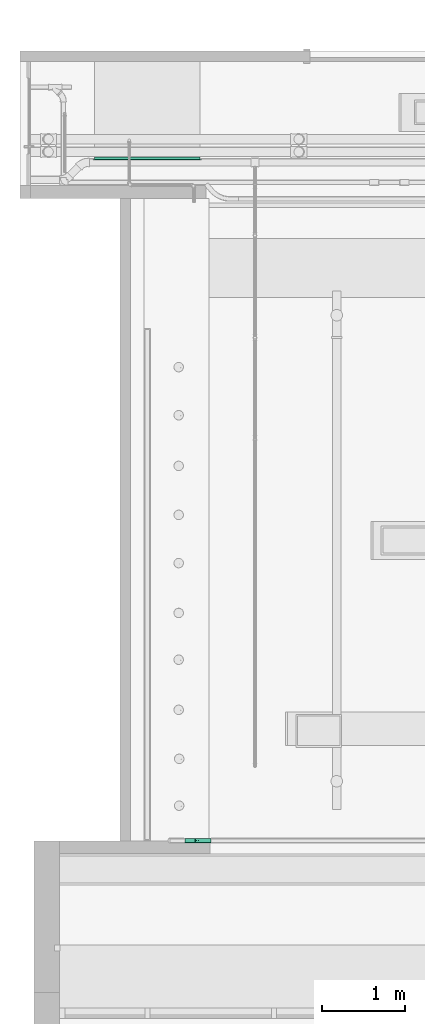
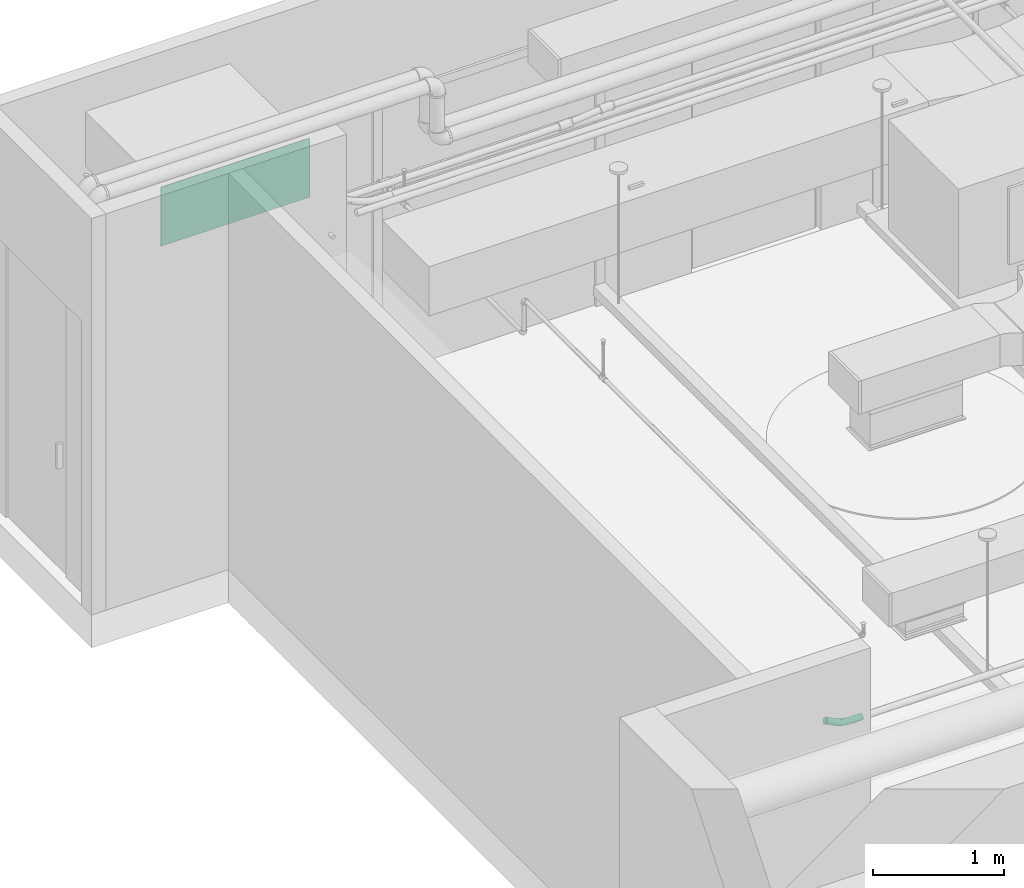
# One storey, part 104 of 108: 1 air terminal, 1 cable carrier fitting.
"""IFC4 building model written with IfcOpenShell, lengths in feet."""

from ifc_helpers import new_model, entity, si_unit, converted_unit, derived_unit, direction, frame, origin, place, context, subcontext, project, spatial, source, transform, mapped, type_object, type_shapes, element, save


model = new_model("IFC4")

# Units and contexts
model_context = context("Model", 3, precision=0.0001, world=origin(), true_north=direction((6.12303176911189e-17, 1.0)))
body_context = subcontext(model_context, "Body", "Model", "MODEL_VIEW")
ifc_project = project(units=[converted_unit("LENGTHUNIT", "FOOT", entity("IfcRatioMeasure", 0.3048), si_unit("LENGTHUNIT", "METRE"), dimensions=[1, 0, 0, 0, 0, 0, 0]), converted_unit("AREAUNIT", "SQUARE FOOT", entity("IfcRatioMeasure", 0.09290304), si_unit("AREAUNIT", "SQUARE_METRE"), dimensions=[2, 0, 0, 0, 0, 0, 0]), converted_unit("VOLUMEUNIT", "CUBIC FOOT", entity("IfcRatioMeasure", 0.028316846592), si_unit("VOLUMEUNIT", "CUBIC_METRE"), dimensions=[3, 0, 0, 0, 0, 0, 0]), converted_unit("PLANEANGLEUNIT", "DEGREE", entity("IfcRatioMeasure", 0.0174532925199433), si_unit("PLANEANGLEUNIT", "RADIAN"), dimensions=[0, 0, 0, 0, 0, 0, 0]), si_unit("MASSUNIT", "GRAM", prefix="KILO"), derived_unit("MASSDENSITYUNIT", [(si_unit("MASSUNIT", "GRAM", prefix="KILO"), 1), (si_unit("LENGTHUNIT", "METRE"), -3)]), si_unit("TIMEUNIT", "SECOND"), si_unit("FREQUENCYUNIT", "HERTZ"), si_unit("THERMODYNAMICTEMPERATUREUNIT", "DEGREE_CELSIUS"), derived_unit("THERMALTRANSMITTANCEUNIT", [(si_unit("MASSUNIT", "GRAM", prefix="KILO"), 1), (si_unit("THERMODYNAMICTEMPERATUREUNIT", "KELVIN"), -1), (si_unit("TIMEUNIT", "SECOND"), -3)]), derived_unit("VOLUMETRICFLOWRATEUNIT", [(si_unit("LENGTHUNIT", "METRE"), 3), (si_unit("TIMEUNIT", "SECOND"), -1)]), si_unit("ELECTRICCURRENTUNIT", "AMPERE"), si_unit("ELECTRICVOLTAGEUNIT", "VOLT"), si_unit("POWERUNIT", "WATT"), si_unit("FORCEUNIT", "NEWTON"), si_unit("ILLUMINANCEUNIT", "LUX"), si_unit("LUMINOUSFLUXUNIT", "LUMEN"), si_unit("LUMINOUSINTENSITYUNIT", "CANDELA"), derived_unit("USERDEFINED", [(si_unit("MASSUNIT", "GRAM", prefix="KILO"), -1), (si_unit("LENGTHUNIT", "METRE"), -2), (si_unit("TIMEUNIT", "SECOND"), 3), (si_unit("LUMINOUSFLUXUNIT", "LUMEN"), 1)]), derived_unit("LINEARVELOCITYUNIT", [(si_unit("LENGTHUNIT", "METRE"), 1), (si_unit("TIMEUNIT", "SECOND"), -1)]), si_unit("PRESSUREUNIT", "PASCAL"), derived_unit("USERDEFINED", [(si_unit("LENGTHUNIT", "METRE"), -2), (si_unit("MASSUNIT", "GRAM", prefix="KILO"), 1), (si_unit("TIMEUNIT", "SECOND"), -2)])], contexts=[model_context])

# Site, building, storey
site_placement = place(None, origin())
site = spatial("IfcSite", under=ifc_project, at=site_placement, Name="Default", CompositionType="ELEMENT")
building_placement = place(site_placement, origin())
building = spatial("IfcBuilding", under=site, at=building_placement, CompositionType="ELEMENT")
storey_placement = place(building_placement, frame((0.0, 0.0, 168.0)))
storey = spatial("IfcBuildingStorey", under=building, at=storey_placement, Name="Level 15", CompositionType="ELEMENT", Elevation=168.0)

# Air terminal
air_terminal_type = type_object("IfcAirTerminalType", Name="50x20", PredefinedType="NOTDEFINED")
cartesian_point_1 = entity("IfcCartesianPoint", [2.15104166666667, -0.015625, 0.901041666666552])
vertex_point_1 = entity("IfcVertexPoint", cartesian_point_1)
cartesian_point_2 = entity("IfcCartesianPoint", [-2.15104166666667, -0.015625, 0.901041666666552])
vertex_point_2 = entity("IfcVertexPoint", cartesian_point_2)
ifc_direction_1 = entity("IfcDirection", [-1.0, 0.0, 0.0])
edge_curve_1 = entity("IfcEdgeCurve", vertex_point_1, vertex_point_2, entity("IfcTrimmedCurve", entity("IfcLine", cartesian_point_1, entity("IfcVector", ifc_direction_1, 1.0)), [cartesian_point_1], [cartesian_point_2], True, "CARTESIAN"), True)
cartesian_point_3 = entity("IfcCartesianPoint", [-2.15104166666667, -0.015625, -0.901041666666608])
vertex_point_3 = entity("IfcVertexPoint", cartesian_point_3)
ifc_direction_2 = entity("IfcDirection", [0.0, 0.0, -1.0])
edge_curve_2 = entity("IfcEdgeCurve", vertex_point_2, vertex_point_3, entity("IfcTrimmedCurve", entity("IfcLine", cartesian_point_2, entity("IfcVector", ifc_direction_2, 1.0)), [cartesian_point_2], [cartesian_point_3], True, "CARTESIAN"), True)
cartesian_point_4 = entity("IfcCartesianPoint", [2.15104166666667, -0.015625, -0.901041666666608])
vertex_point_4 = entity("IfcVertexPoint", cartesian_point_4)
ifc_direction_3 = entity("IfcDirection", [1.0, 0.0, 0.0])
edge_curve_3 = entity("IfcEdgeCurve", vertex_point_3, vertex_point_4, entity("IfcTrimmedCurve", entity("IfcLine", cartesian_point_3, entity("IfcVector", ifc_direction_3, 1.0)), [cartesian_point_3], [cartesian_point_4], True, "CARTESIAN"), True)
ifc_direction_4 = entity("IfcDirection", [0.0, 0.0, 1.0])
edge_curve_4 = entity("IfcEdgeCurve", vertex_point_4, vertex_point_1, entity("IfcTrimmedCurve", entity("IfcLine", cartesian_point_4, entity("IfcVector", ifc_direction_4, 1.0)), [cartesian_point_4], [cartesian_point_1], True, "CARTESIAN"), True)
ifc_direction_5 = entity("IfcDirection", [0.0, -1.0, 0.0])
cartesian_point_5 = entity("IfcCartesianPoint", [2.15104166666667, 0.0, 0.901041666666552])
vertex_point_5 = entity("IfcVertexPoint", cartesian_point_5)
cartesian_point_6 = entity("IfcCartesianPoint", [2.15104166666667, 0.0, -0.901041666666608])
vertex_point_6 = entity("IfcVertexPoint", cartesian_point_6)
edge_curve_5 = entity("IfcEdgeCurve", vertex_point_5, vertex_point_6, entity("IfcTrimmedCurve", entity("IfcLine", cartesian_point_5, entity("IfcVector", ifc_direction_2, 1.0)), [cartesian_point_5], [cartesian_point_6], True, "CARTESIAN"), True)
cartesian_point_7 = entity("IfcCartesianPoint", [-2.15104166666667, 0.0, -0.901041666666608])
vertex_point_7 = entity("IfcVertexPoint", cartesian_point_7)
edge_curve_6 = entity("IfcEdgeCurve", vertex_point_6, vertex_point_7, entity("IfcTrimmedCurve", entity("IfcLine", cartesian_point_6, entity("IfcVector", ifc_direction_1, 1.0)), [cartesian_point_6], [cartesian_point_7], True, "CARTESIAN"), True)
cartesian_point_8 = entity("IfcCartesianPoint", [-2.15104166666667, 0.0, 0.901041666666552])
vertex_point_8 = entity("IfcVertexPoint", cartesian_point_8)
edge_curve_7 = entity("IfcEdgeCurve", vertex_point_7, vertex_point_8, entity("IfcTrimmedCurve", entity("IfcLine", cartesian_point_7, entity("IfcVector", ifc_direction_4, 1.0)), [cartesian_point_7], [cartesian_point_8], True, "CARTESIAN"), True)
edge_curve_8 = entity("IfcEdgeCurve", vertex_point_8, vertex_point_5, entity("IfcTrimmedCurve", entity("IfcLine", cartesian_point_8, entity("IfcVector", ifc_direction_3, 1.0)), [cartesian_point_8], [cartesian_point_5], True, "CARTESIAN"), True)
cartesian_point_9 = entity("IfcCartesianPoint", [-2.08333333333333, 0.0, 0.833333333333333])
vertex_point_9 = entity("IfcVertexPoint", cartesian_point_9)
cartesian_point_10 = entity("IfcCartesianPoint", [-2.08333333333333, 0.0, -0.833333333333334])
vertex_point_10 = entity("IfcVertexPoint", cartesian_point_10)
edge_curve_9 = entity("IfcEdgeCurve", vertex_point_9, vertex_point_10, entity("IfcTrimmedCurve", entity("IfcLine", cartesian_point_9, entity("IfcVector", ifc_direction_2, 1.0)), [cartesian_point_9], [cartesian_point_10], True, "CARTESIAN"), True)
cartesian_point_11 = entity("IfcCartesianPoint", [2.08333333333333, 0.0, -0.833333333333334])
vertex_point_11 = entity("IfcVertexPoint", cartesian_point_11)
edge_curve_10 = entity("IfcEdgeCurve", vertex_point_10, vertex_point_11, entity("IfcTrimmedCurve", entity("IfcLine", cartesian_point_10, entity("IfcVector", ifc_direction_3, 1.0)), [cartesian_point_10], [cartesian_point_11], True, "CARTESIAN"), True)
cartesian_point_12 = entity("IfcCartesianPoint", [2.08333333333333, 0.0, 0.833333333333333])
vertex_point_12 = entity("IfcVertexPoint", cartesian_point_12)
edge_curve_11 = entity("IfcEdgeCurve", vertex_point_11, vertex_point_12, entity("IfcTrimmedCurve", entity("IfcLine", cartesian_point_11, entity("IfcVector", ifc_direction_4, 1.0)), [cartesian_point_11], [cartesian_point_12], True, "CARTESIAN"), True)
edge_curve_12 = entity("IfcEdgeCurve", vertex_point_12, vertex_point_9, entity("IfcTrimmedCurve", entity("IfcLine", cartesian_point_12, entity("IfcVector", ifc_direction_1, 1.0)), [cartesian_point_12], [cartesian_point_9], True, "CARTESIAN"), True)
ifc_direction_6 = entity("IfcDirection", [0.0, 1.0, 0.0])
edge_curve_13 = entity("IfcEdgeCurve", vertex_point_1, vertex_point_5, entity("IfcTrimmedCurve", entity("IfcLine", cartesian_point_1, entity("IfcVector", ifc_direction_6, 1.0)), [cartesian_point_1], [cartesian_point_5], True, "CARTESIAN"), True)
edge_curve_14 = entity("IfcEdgeCurve", vertex_point_8, vertex_point_2, entity("IfcTrimmedCurve", entity("IfcLine", cartesian_point_2, entity("IfcVector", ifc_direction_5, 1.0)), [cartesian_point_8], [cartesian_point_2], True, "CARTESIAN"), True)
edge_curve_15 = entity("IfcEdgeCurve", vertex_point_7, vertex_point_3, entity("IfcTrimmedCurve", entity("IfcLine", cartesian_point_3, entity("IfcVector", ifc_direction_5, 1.0)), [cartesian_point_7], [cartesian_point_3], True, "CARTESIAN"), True)
edge_curve_16 = entity("IfcEdgeCurve", vertex_point_6, vertex_point_4, entity("IfcTrimmedCurve", entity("IfcLine", cartesian_point_4, entity("IfcVector", ifc_direction_5, 1.0)), [cartesian_point_6], [cartesian_point_4], True, "CARTESIAN"), True)
cartesian_point_13 = entity("IfcCartesianPoint", [-2.08333333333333, 0.08984375, 0.833333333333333])
vertex_point_13 = entity("IfcVertexPoint", cartesian_point_13)
cartesian_point_14 = entity("IfcCartesianPoint", [2.08333333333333, 0.08984375, 0.833333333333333])
vertex_point_14 = entity("IfcVertexPoint", cartesian_point_14)
edge_curve_17 = entity("IfcEdgeCurve", vertex_point_13, vertex_point_14, entity("IfcTrimmedCurve", entity("IfcLine", cartesian_point_13, entity("IfcVector", ifc_direction_3, 1.0)), [cartesian_point_13], [cartesian_point_14], True, "CARTESIAN"), True)
cartesian_point_15 = entity("IfcCartesianPoint", [2.08333333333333, 0.08984375, -0.833333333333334])
vertex_point_15 = entity("IfcVertexPoint", cartesian_point_15)
edge_curve_18 = entity("IfcEdgeCurve", vertex_point_14, vertex_point_15, entity("IfcTrimmedCurve", entity("IfcLine", cartesian_point_14, entity("IfcVector", ifc_direction_2, 1.0)), [cartesian_point_14], [cartesian_point_15], True, "CARTESIAN"), True)
cartesian_point_16 = entity("IfcCartesianPoint", [-2.08333333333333, 0.08984375, -0.833333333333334])
vertex_point_16 = entity("IfcVertexPoint", cartesian_point_16)
edge_curve_19 = entity("IfcEdgeCurve", vertex_point_15, vertex_point_16, entity("IfcTrimmedCurve", entity("IfcLine", cartesian_point_15, entity("IfcVector", ifc_direction_1, 1.0)), [cartesian_point_15], [cartesian_point_16], True, "CARTESIAN"), True)
edge_curve_20 = entity("IfcEdgeCurve", vertex_point_16, vertex_point_13, entity("IfcTrimmedCurve", entity("IfcLine", cartesian_point_16, entity("IfcVector", ifc_direction_4, 1.0)), [cartesian_point_16], [cartesian_point_13], True, "CARTESIAN"), True)
cartesian_point_17 = entity("IfcCartesianPoint", [-2.0625, 0.08984375, 0.812500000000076])
vertex_point_17 = entity("IfcVertexPoint", cartesian_point_17)
cartesian_point_18 = entity("IfcCartesianPoint", [-2.0625, 0.08984375, -0.812500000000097])
vertex_point_18 = entity("IfcVertexPoint", cartesian_point_18)
edge_curve_21 = entity("IfcEdgeCurve", vertex_point_17, vertex_point_18, entity("IfcTrimmedCurve", entity("IfcLine", cartesian_point_17, entity("IfcVector", ifc_direction_2, 1.0)), [cartesian_point_17], [cartesian_point_18], True, "CARTESIAN"), True)
cartesian_point_19 = entity("IfcCartesianPoint", [2.0625, 0.08984375, -0.812500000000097])
vertex_point_19 = entity("IfcVertexPoint", cartesian_point_19)
edge_curve_22 = entity("IfcEdgeCurve", vertex_point_18, vertex_point_19, entity("IfcTrimmedCurve", entity("IfcLine", cartesian_point_18, entity("IfcVector", ifc_direction_3, 1.0)), [cartesian_point_18], [cartesian_point_19], True, "CARTESIAN"), True)
cartesian_point_20 = entity("IfcCartesianPoint", [2.0625, 0.08984375, 0.812500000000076])
vertex_point_20 = entity("IfcVertexPoint", cartesian_point_20)
edge_curve_23 = entity("IfcEdgeCurve", vertex_point_19, vertex_point_20, entity("IfcTrimmedCurve", entity("IfcLine", cartesian_point_19, entity("IfcVector", ifc_direction_4, 1.0)), [cartesian_point_19], [cartesian_point_20], True, "CARTESIAN"), True)
edge_curve_24 = entity("IfcEdgeCurve", vertex_point_20, vertex_point_17, entity("IfcTrimmedCurve", entity("IfcLine", cartesian_point_20, entity("IfcVector", ifc_direction_1, 1.0)), [cartesian_point_20], [cartesian_point_17], True, "CARTESIAN"), True)
edge_curve_25 = entity("IfcEdgeCurve", vertex_point_16, vertex_point_10, entity("IfcTrimmedCurve", entity("IfcLine", cartesian_point_10, entity("IfcVector", ifc_direction_5, 1.0)), [cartesian_point_16], [cartesian_point_10], True, "CARTESIAN"), True)
edge_curve_26 = entity("IfcEdgeCurve", vertex_point_9, vertex_point_13, entity("IfcTrimmedCurve", entity("IfcLine", cartesian_point_9, entity("IfcVector", ifc_direction_6, 1.0)), [cartesian_point_9], [cartesian_point_13], True, "CARTESIAN"), True)
edge_curve_27 = entity("IfcEdgeCurve", vertex_point_15, vertex_point_11, entity("IfcTrimmedCurve", entity("IfcLine", cartesian_point_11, entity("IfcVector", ifc_direction_5, 1.0)), [cartesian_point_15], [cartesian_point_11], True, "CARTESIAN"), True)
edge_curve_28 = entity("IfcEdgeCurve", vertex_point_14, vertex_point_12, entity("IfcTrimmedCurve", entity("IfcLine", cartesian_point_12, entity("IfcVector", ifc_direction_5, 1.0)), [cartesian_point_14], [cartesian_point_12], True, "CARTESIAN"), True)
cartesian_point_21 = entity("IfcCartesianPoint", [-2.0625, 0.0911458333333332, 0.812500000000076])
vertex_point_21 = entity("IfcVertexPoint", cartesian_point_21)
cartesian_point_22 = entity("IfcCartesianPoint", [2.0625, 0.0911458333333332, 0.812500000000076])
vertex_point_22 = entity("IfcVertexPoint", cartesian_point_22)
edge_curve_29 = entity("IfcEdgeCurve", vertex_point_21, vertex_point_22, entity("IfcTrimmedCurve", entity("IfcLine", cartesian_point_21, entity("IfcVector", ifc_direction_3, 1.0)), [cartesian_point_21], [cartesian_point_22], True, "CARTESIAN"), True)
cartesian_point_23 = entity("IfcCartesianPoint", [2.0625, 0.0911458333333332, -0.812500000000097])
vertex_point_23 = entity("IfcVertexPoint", cartesian_point_23)
edge_curve_30 = entity("IfcEdgeCurve", vertex_point_22, vertex_point_23, entity("IfcTrimmedCurve", entity("IfcLine", cartesian_point_22, entity("IfcVector", ifc_direction_2, 1.0)), [cartesian_point_22], [cartesian_point_23], True, "CARTESIAN"), True)
cartesian_point_24 = entity("IfcCartesianPoint", [-2.0625, 0.0911458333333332, -0.812500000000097])
vertex_point_24 = entity("IfcVertexPoint", cartesian_point_24)
edge_curve_31 = entity("IfcEdgeCurve", vertex_point_23, vertex_point_24, entity("IfcTrimmedCurve", entity("IfcLine", cartesian_point_23, entity("IfcVector", ifc_direction_1, 1.0)), [cartesian_point_23], [cartesian_point_24], True, "CARTESIAN"), True)
edge_curve_32 = entity("IfcEdgeCurve", vertex_point_24, vertex_point_21, entity("IfcTrimmedCurve", entity("IfcLine", cartesian_point_24, entity("IfcVector", ifc_direction_4, 1.0)), [cartesian_point_24], [cartesian_point_21], True, "CARTESIAN"), True)
edge_curve_33 = entity("IfcEdgeCurve", vertex_point_24, vertex_point_18, entity("IfcTrimmedCurve", entity("IfcLine", cartesian_point_18, entity("IfcVector", ifc_direction_5, 1.0)), [cartesian_point_24], [cartesian_point_18], True, "CARTESIAN"), True)
edge_curve_34 = entity("IfcEdgeCurve", vertex_point_17, vertex_point_21, entity("IfcTrimmedCurve", entity("IfcLine", cartesian_point_17, entity("IfcVector", ifc_direction_6, 1.0)), [cartesian_point_17], [cartesian_point_21], True, "CARTESIAN"), True)
edge_curve_35 = entity("IfcEdgeCurve", vertex_point_23, vertex_point_19, entity("IfcTrimmedCurve", entity("IfcLine", cartesian_point_19, entity("IfcVector", ifc_direction_5, 1.0)), [cartesian_point_23], [cartesian_point_19], True, "CARTESIAN"), True)
edge_curve_36 = entity("IfcEdgeCurve", vertex_point_22, vertex_point_20, entity("IfcTrimmedCurve", entity("IfcLine", cartesian_point_20, entity("IfcVector", ifc_direction_5, 1.0)), [cartesian_point_22], [cartesian_point_20], True, "CARTESIAN"), True)
shared_shape_1 = source(origin(), body_context, "Body", "AdvancedBrep", [
    entity("IfcAdvancedBrep", entity("IfcClosedShell", [entity("IfcAdvancedFace", [entity("IfcFaceOuterBound", entity("IfcEdgeLoop", [entity("IfcOrientedEdge", None, None, edge_curve_1, True), entity("IfcOrientedEdge", None, None, edge_curve_2, True), entity("IfcOrientedEdge", None, None, edge_curve_3, True), entity("IfcOrientedEdge", None, None, edge_curve_4, True)]), True)], entity("IfcPlane", entity("IfcAxis2Placement3D", cartesian_point_2, ifc_direction_5, ifc_direction_1)), True), entity("IfcAdvancedFace", [entity("IfcFaceOuterBound", entity("IfcEdgeLoop", [entity("IfcOrientedEdge", None, None, edge_curve_5, True), entity("IfcOrientedEdge", None, None, edge_curve_6, True), entity("IfcOrientedEdge", None, None, edge_curve_7, True), entity("IfcOrientedEdge", None, None, edge_curve_8, True)]), True), entity("IfcFaceBound", entity("IfcEdgeLoop", [entity("IfcOrientedEdge", None, None, edge_curve_9, True), entity("IfcOrientedEdge", None, None, edge_curve_10, True), entity("IfcOrientedEdge", None, None, edge_curve_11, True), entity("IfcOrientedEdge", None, None, edge_curve_12, True)]), False)], entity("IfcPlane", entity("IfcAxis2Placement3D", cartesian_point_8, ifc_direction_6, ifc_direction_3)), True), entity("IfcAdvancedFace", [entity("IfcFaceOuterBound", entity("IfcEdgeLoop", [entity("IfcOrientedEdge", None, None, edge_curve_1, False), entity("IfcOrientedEdge", None, None, edge_curve_13, True), entity("IfcOrientedEdge", None, None, edge_curve_8, False), entity("IfcOrientedEdge", None, None, edge_curve_14, True)]), True)], entity("IfcPlane", entity("IfcAxis2Placement3D", cartesian_point_1, ifc_direction_4, ifc_direction_6)), True), entity("IfcAdvancedFace", [entity("IfcFaceOuterBound", entity("IfcEdgeLoop", [entity("IfcOrientedEdge", None, None, edge_curve_2, False), entity("IfcOrientedEdge", None, None, edge_curve_14, False), entity("IfcOrientedEdge", None, None, edge_curve_7, False), entity("IfcOrientedEdge", None, None, edge_curve_15, True)]), True)], entity("IfcPlane", entity("IfcAxis2Placement3D", cartesian_point_2, ifc_direction_1, ifc_direction_6)), True), entity("IfcAdvancedFace", [entity("IfcFaceOuterBound", entity("IfcEdgeLoop", [entity("IfcOrientedEdge", None, None, edge_curve_3, False), entity("IfcOrientedEdge", None, None, edge_curve_15, False), entity("IfcOrientedEdge", None, None, edge_curve_6, False), entity("IfcOrientedEdge", None, None, edge_curve_16, True)]), True)], entity("IfcPlane", entity("IfcAxis2Placement3D", cartesian_point_3, ifc_direction_2, ifc_direction_6)), True), entity("IfcAdvancedFace", [entity("IfcFaceOuterBound", entity("IfcEdgeLoop", [entity("IfcOrientedEdge", None, None, edge_curve_4, False), entity("IfcOrientedEdge", None, None, edge_curve_16, False), entity("IfcOrientedEdge", None, None, edge_curve_5, False), entity("IfcOrientedEdge", None, None, edge_curve_13, False)]), True)], entity("IfcPlane", entity("IfcAxis2Placement3D", cartesian_point_4, ifc_direction_3, ifc_direction_6)), True), entity("IfcAdvancedFace", [entity("IfcFaceOuterBound", entity("IfcEdgeLoop", [entity("IfcOrientedEdge", None, None, edge_curve_17, True), entity("IfcOrientedEdge", None, None, edge_curve_18, True), entity("IfcOrientedEdge", None, None, edge_curve_19, True), entity("IfcOrientedEdge", None, None, edge_curve_20, True)]), True), entity("IfcFaceBound", entity("IfcEdgeLoop", [entity("IfcOrientedEdge", None, None, edge_curve_21, True), entity("IfcOrientedEdge", None, None, edge_curve_22, True), entity("IfcOrientedEdge", None, None, edge_curve_23, True), entity("IfcOrientedEdge", None, None, edge_curve_24, True)]), False)], entity("IfcPlane", entity("IfcAxis2Placement3D", cartesian_point_13, ifc_direction_6, ifc_direction_4)), True), entity("IfcAdvancedFace", [entity("IfcFaceOuterBound", entity("IfcEdgeLoop", [entity("IfcOrientedEdge", None, None, edge_curve_20, False), entity("IfcOrientedEdge", None, None, edge_curve_25, True), entity("IfcOrientedEdge", None, None, edge_curve_9, False), entity("IfcOrientedEdge", None, None, edge_curve_26, True)]), True)], entity("IfcPlane", entity("IfcAxis2Placement3D", cartesian_point_9, ifc_direction_1, ifc_direction_6)), True), entity("IfcAdvancedFace", [entity("IfcFaceOuterBound", entity("IfcEdgeLoop", [entity("IfcOrientedEdge", None, None, edge_curve_19, False), entity("IfcOrientedEdge", None, None, edge_curve_27, True), entity("IfcOrientedEdge", None, None, edge_curve_10, False), entity("IfcOrientedEdge", None, None, edge_curve_25, False)]), True)], entity("IfcPlane", entity("IfcAxis2Placement3D", cartesian_point_10, ifc_direction_2, ifc_direction_6)), True), entity("IfcAdvancedFace", [entity("IfcFaceOuterBound", entity("IfcEdgeLoop", [entity("IfcOrientedEdge", None, None, edge_curve_18, False), entity("IfcOrientedEdge", None, None, edge_curve_28, True), entity("IfcOrientedEdge", None, None, edge_curve_11, False), entity("IfcOrientedEdge", None, None, edge_curve_27, False)]), True)], entity("IfcPlane", entity("IfcAxis2Placement3D", cartesian_point_11, ifc_direction_3, ifc_direction_6)), True), entity("IfcAdvancedFace", [entity("IfcFaceOuterBound", entity("IfcEdgeLoop", [entity("IfcOrientedEdge", None, None, edge_curve_17, False), entity("IfcOrientedEdge", None, None, edge_curve_26, False), entity("IfcOrientedEdge", None, None, edge_curve_12, False), entity("IfcOrientedEdge", None, None, edge_curve_28, False)]), True)], entity("IfcPlane", entity("IfcAxis2Placement3D", cartesian_point_12, ifc_direction_4, ifc_direction_6)), True), entity("IfcAdvancedFace", [entity("IfcFaceOuterBound", entity("IfcEdgeLoop", [entity("IfcOrientedEdge", None, None, edge_curve_29, True), entity("IfcOrientedEdge", None, None, edge_curve_30, True), entity("IfcOrientedEdge", None, None, edge_curve_31, True), entity("IfcOrientedEdge", None, None, edge_curve_32, True)]), True)], entity("IfcPlane", entity("IfcAxis2Placement3D", cartesian_point_21, ifc_direction_6, ifc_direction_4)), True), entity("IfcAdvancedFace", [entity("IfcFaceOuterBound", entity("IfcEdgeLoop", [entity("IfcOrientedEdge", None, None, edge_curve_32, False), entity("IfcOrientedEdge", None, None, edge_curve_33, True), entity("IfcOrientedEdge", None, None, edge_curve_21, False), entity("IfcOrientedEdge", None, None, edge_curve_34, True)]), True)], entity("IfcPlane", entity("IfcAxis2Placement3D", cartesian_point_17, ifc_direction_1, ifc_direction_6)), True), entity("IfcAdvancedFace", [entity("IfcFaceOuterBound", entity("IfcEdgeLoop", [entity("IfcOrientedEdge", None, None, edge_curve_31, False), entity("IfcOrientedEdge", None, None, edge_curve_35, True), entity("IfcOrientedEdge", None, None, edge_curve_22, False), entity("IfcOrientedEdge", None, None, edge_curve_33, False)]), True)], entity("IfcPlane", entity("IfcAxis2Placement3D", cartesian_point_18, ifc_direction_2, ifc_direction_6)), True), entity("IfcAdvancedFace", [entity("IfcFaceOuterBound", entity("IfcEdgeLoop", [entity("IfcOrientedEdge", None, None, edge_curve_30, False), entity("IfcOrientedEdge", None, None, edge_curve_36, True), entity("IfcOrientedEdge", None, None, edge_curve_23, False), entity("IfcOrientedEdge", None, None, edge_curve_35, False)]), True)], entity("IfcPlane", entity("IfcAxis2Placement3D", cartesian_point_19, ifc_direction_3, ifc_direction_6)), True), entity("IfcAdvancedFace", [entity("IfcFaceOuterBound", entity("IfcEdgeLoop", [entity("IfcOrientedEdge", None, None, edge_curve_29, False), entity("IfcOrientedEdge", None, None, edge_curve_34, False), entity("IfcOrientedEdge", None, None, edge_curve_24, False), entity("IfcOrientedEdge", None, None, edge_curve_36, False)]), True)], entity("IfcPlane", entity("IfcAxis2Placement3D", cartesian_point_20, ifc_direction_4, ifc_direction_6)), True)])),
])
type_shapes(air_terminal_type, [shared_shape_1])
air_terminal_placement = place(storey_placement, frame((-55.0598474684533, 11.3298321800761, 10.2083333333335)))
element("IfcAirTerminal", 1, at=air_terminal_placement, inside=storey, type_object=air_terminal_type, Name="Supply Diffuser - Sidewall:50x20", ObjectType="Supply Diffuser - Sidewall:50x20", PredefinedType="NOTDEFINED", context=body_context, shape_type="MappedRepresentation", body=[
    mapped(shared_shape_1, transform((0.0, 0.0, 0.0), scale=1.0)),
])

# Cable carrier fitting
cable_carrier_fitting_type = type_object("IfcCableCarrierFittingType", Name="Standard", PredefinedType="NOTDEFINED")
cartesian_point_25 = entity("IfcCartesianPoint", [-0.554582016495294, -0.0915416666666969, 0.0])
vertex_point_25 = entity("IfcVertexPoint", cartesian_point_25)
cartesian_point_26 = entity("IfcCartesianPoint", [-0.554582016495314, 0.0915416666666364, 0.0])
vertex_point_26 = entity("IfcVertexPoint", cartesian_point_26)
cartesian_point_27 = entity("IfcCartesianPoint", [-0.554582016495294, 0.0, 0.0])
ifc_direction_7 = entity("IfcDirection", [-1.0, 0.0, 0.0])
ifc_direction_8 = entity("IfcDirection", [0.0, 1.0, 0.0])
edge_curve_37 = entity("IfcEdgeCurve", vertex_point_25, vertex_point_26, entity("IfcTrimmedCurve", entity("IfcCircle", entity("IfcAxis2Placement3D", cartesian_point_27, ifc_direction_7, ifc_direction_8), 0.0915416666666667), [cartesian_point_25], [cartesian_point_26], True, "CARTESIAN"), True)
edge_curve_38 = entity("IfcEdgeCurve", vertex_point_26, vertex_point_25, entity("IfcTrimmedCurve", entity("IfcCircle", entity("IfcAxis2Placement3D", cartesian_point_27, ifc_direction_7, ifc_direction_8), 0.0915416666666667), [cartesian_point_26], [cartesian_point_25], True, "CARTESIAN"), True)
ifc_direction_9 = entity("IfcDirection", [0.0, 0.0, 1.0])
cartesian_point_28 = entity("IfcCartesianPoint", [-0.221248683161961, -0.0915416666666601, 0.0])
vertex_point_27 = entity("IfcVertexPoint", cartesian_point_28)
edge_curve_39 = entity("IfcEdgeCurve", vertex_point_25, vertex_point_27, entity("IfcTrimmedCurve", entity("IfcLine", cartesian_point_25, entity("IfcVector", entity("IfcDirection", [1.0, 0.0, 0.0]), 1.0)), [cartesian_point_25], [cartesian_point_28], True, "CARTESIAN"), True)
cartesian_point_29 = entity("IfcCartesianPoint", [-0.221248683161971, 0.0915416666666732, 0.0])
vertex_point_28 = entity("IfcVertexPoint", cartesian_point_29)
cartesian_point_30 = entity("IfcCartesianPoint", [-0.221248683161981, 0.0, 0.0])
edge_curve_40 = entity("IfcEdgeCurve", vertex_point_27, vertex_point_28, entity("IfcTrimmedCurve", entity("IfcCircle", entity("IfcAxis2Placement3D", cartesian_point_30, ifc_direction_7, ifc_direction_8), 0.0915416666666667), [cartesian_point_28], [cartesian_point_29], True, "CARTESIAN"), True)
edge_curve_41 = entity("IfcEdgeCurve", vertex_point_28, vertex_point_26, entity("IfcTrimmedCurve", entity("IfcLine", cartesian_point_26, entity("IfcVector", ifc_direction_7, 1.0)), [cartesian_point_29], [cartesian_point_26], True, "CARTESIAN"), True)
edge_curve_42 = entity("IfcEdgeCurve", vertex_point_28, vertex_point_27, entity("IfcTrimmedCurve", entity("IfcCircle", entity("IfcAxis2Placement3D", cartesian_point_30, ifc_direction_7, ifc_direction_8), 0.0915416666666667), [cartesian_point_29], [cartesian_point_28], True, "CARTESIAN"), True)
cartesian_point_31 = entity("IfcCartesianPoint", [0.158727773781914, 0.179266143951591, 0.0])
vertex_point_29 = entity("IfcVertexPoint", cartesian_point_31)
cartesian_point_32 = entity("IfcCartesianPoint", [-0.221248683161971, 0.958333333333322, 0.0])
ifc_direction_10 = entity("IfcDirection", [0.0, -1.0, 0.0])
edge_curve_43 = entity("IfcEdgeCurve", vertex_point_29, vertex_point_28, entity("IfcTrimmedCurve", entity("IfcCircle", entity("IfcAxis2Placement3D", cartesian_point_32, entity("IfcDirection", [0.0, 0.0, -1.0]), ifc_direction_10), 0.866791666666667), [cartesian_point_31], [cartesian_point_29], True, "CARTESIAN"), True)
cartesian_point_33 = entity("IfcCartesianPoint", [0.238986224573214, 0.014711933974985, 0.0])
vertex_point_30 = entity("IfcVertexPoint", cartesian_point_33)
edge_curve_44 = entity("IfcEdgeCurve", vertex_point_27, vertex_point_30, entity("IfcTrimmedCurve", entity("IfcCircle", entity("IfcAxis2Placement3D", cartesian_point_32, ifc_direction_9, ifc_direction_10), 1.049875), [cartesian_point_28], [cartesian_point_33], True, "CARTESIAN"), True)
cartesian_point_34 = entity("IfcCartesianPoint", [0.198856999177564, 0.0969890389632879, 0.0])
edge_curve_45 = entity("IfcEdgeCurve", vertex_point_30, vertex_point_29, entity("IfcTrimmedCurve", entity("IfcCircle", entity("IfcAxis2Placement3D", cartesian_point_34, entity("IfcDirection", [-0.898794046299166, -0.43837114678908, 0.0]), entity("IfcDirection", [-0.43837114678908, 0.898794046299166, 0.0])), 0.0915416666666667), [cartesian_point_33], [cartesian_point_31], True, "CARTESIAN"), True)
cartesian_point_35 = entity("IfcCartesianPoint", [0.737084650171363, 0.958333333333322, 0.0])
cartesian_point_36 = entity("IfcCartesianPoint", [0.828626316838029, 0.958333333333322, 0.0])
cartesian_point_37 = entity("IfcCartesianPoint", [0.645542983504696, 0.958333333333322, 0.0])
edge_curve_46 = entity("IfcEdgeCurve", vertex_point_29, vertex_point_30, entity("IfcTrimmedCurve", entity("IfcCircle", entity("IfcAxis2Placement3D", cartesian_point_34, entity("IfcDirection", [-0.898794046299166, -0.43837114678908, 0.0]), entity("IfcDirection", [-0.43837114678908, 0.898794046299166, 0.0])), 0.0915416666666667), [cartesian_point_31], [cartesian_point_33], True, "CARTESIAN"), True)
cartesian_point_38 = entity("IfcCartesianPoint", [0.53858424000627, 0.160835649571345, 0.0])
vertex_point_31 = entity("IfcVertexPoint", cartesian_point_38)
cartesian_point_39 = entity("IfcCartesianPoint", [0.458325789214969, 0.325389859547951, 0.0])
vertex_point_32 = entity("IfcVertexPoint", cartesian_point_39)
cartesian_point_40 = entity("IfcCartesianPoint", [0.498455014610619, 0.243112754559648, 0.0])
edge_curve_47 = entity("IfcEdgeCurve", vertex_point_31, vertex_point_32, entity("IfcTrimmedCurve", entity("IfcCircle", entity("IfcAxis2Placement3D", cartesian_point_40, entity("IfcDirection", [0.898794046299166, 0.43837114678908, 0.0]), entity("IfcDirection", [-0.43837114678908, 0.898794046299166, 0.0])), 0.0915416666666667), [cartesian_point_38], [cartesian_point_39], True, "CARTESIAN"), True)
edge_curve_48 = entity("IfcEdgeCurve", vertex_point_32, vertex_point_31, entity("IfcTrimmedCurve", entity("IfcCircle", entity("IfcAxis2Placement3D", cartesian_point_40, entity("IfcDirection", [0.898794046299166, 0.43837114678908, 0.0]), entity("IfcDirection", [-0.43837114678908, 0.898794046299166, 0.0])), 0.0915416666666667), [cartesian_point_39], [cartesian_point_38], True, "CARTESIAN"), True)
edge_curve_49 = entity("IfcEdgeCurve", vertex_point_30, vertex_point_31, entity("IfcTrimmedCurve", entity("IfcLine", cartesian_point_33, entity("IfcVector", entity("IfcDirection", [0.898794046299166, 0.43837114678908, 0.0]), 1.0)), [cartesian_point_33], [cartesian_point_38], True, "CARTESIAN"), True)
edge_curve_50 = entity("IfcEdgeCurve", vertex_point_32, vertex_point_29, entity("IfcTrimmedCurve", entity("IfcLine", cartesian_point_31, entity("IfcVector", entity("IfcDirection", [-0.898794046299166, -0.43837114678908, 0.0]), 1.0)), [cartesian_point_39], [cartesian_point_31], True, "CARTESIAN"), True)
shared_shape_2 = source(origin(), body_context, "Body", "AdvancedBrep", [
    entity("IfcAdvancedBrep", entity("IfcClosedShell", [entity("IfcAdvancedFace", [entity("IfcFaceOuterBound", entity("IfcEdgeLoop", [entity("IfcOrientedEdge", None, None, edge_curve_37, True), entity("IfcOrientedEdge", None, None, edge_curve_38, True)]), True)], entity("IfcPlane", entity("IfcAxis2Placement3D", cartesian_point_27, ifc_direction_7, ifc_direction_9)), True), entity("IfcAdvancedFace", [entity("IfcFaceOuterBound", entity("IfcEdgeLoop", [entity("IfcOrientedEdge", None, None, edge_curve_37, False), entity("IfcOrientedEdge", None, None, edge_curve_39, True), entity("IfcOrientedEdge", None, None, edge_curve_40, True), entity("IfcOrientedEdge", None, None, edge_curve_41, True)]), True)], entity("IfcCylindricalSurface", entity("IfcAxis2Placement3D", cartesian_point_27, ifc_direction_7, ifc_direction_8), 0.0915416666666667), True), entity("IfcAdvancedFace", [entity("IfcFaceOuterBound", entity("IfcEdgeLoop", [entity("IfcOrientedEdge", None, None, edge_curve_38, False), entity("IfcOrientedEdge", None, None, edge_curve_41, False), entity("IfcOrientedEdge", None, None, edge_curve_42, True), entity("IfcOrientedEdge", None, None, edge_curve_39, False)]), True)], entity("IfcCylindricalSurface", entity("IfcAxis2Placement3D", cartesian_point_27, ifc_direction_7, ifc_direction_8), 0.0915416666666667), True), entity("IfcAdvancedFace", [entity("IfcFaceOuterBound", entity("IfcEdgeLoop", [entity("IfcOrientedEdge", None, None, edge_curve_43, True), entity("IfcOrientedEdge", None, None, edge_curve_40, False), entity("IfcOrientedEdge", None, None, edge_curve_44, True), entity("IfcOrientedEdge", None, None, edge_curve_45, True)]), True)], entity("IfcSurfaceOfRevolution", entity("IfcArbitraryOpenProfileDef", "CURVE", None, entity("IfcTrimmedCurve", entity("IfcTrimmedCurve", entity("IfcCircle", entity("IfcAxis2Placement3D", cartesian_point_35, ifc_direction_10, ifc_direction_7), 0.0915416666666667), [cartesian_point_36], [cartesian_point_37], True, "CARTESIAN"), [cartesian_point_36], [cartesian_point_37], True, "CARTESIAN")), None, entity("IfcAxis1Placement", cartesian_point_32, ifc_direction_9)), True), entity("IfcAdvancedFace", [entity("IfcFaceOuterBound", entity("IfcEdgeLoop", [entity("IfcOrientedEdge", None, None, edge_curve_44, False), entity("IfcOrientedEdge", None, None, edge_curve_42, False), entity("IfcOrientedEdge", None, None, edge_curve_43, False), entity("IfcOrientedEdge", None, None, edge_curve_46, True)]), True)], entity("IfcSurfaceOfRevolution", entity("IfcArbitraryOpenProfileDef", "CURVE", None, entity("IfcTrimmedCurve", entity("IfcTrimmedCurve", entity("IfcCircle", entity("IfcAxis2Placement3D", cartesian_point_35, ifc_direction_10, ifc_direction_7), 0.0915416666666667), [cartesian_point_37], [cartesian_point_36], True, "CARTESIAN"), [cartesian_point_37], [cartesian_point_36], True, "CARTESIAN")), None, entity("IfcAxis1Placement", cartesian_point_32, ifc_direction_9)), True), entity("IfcAdvancedFace", [entity("IfcFaceOuterBound", entity("IfcEdgeLoop", [entity("IfcOrientedEdge", None, None, edge_curve_47, True), entity("IfcOrientedEdge", None, None, edge_curve_48, True)]), True)], entity("IfcPlane", entity("IfcAxis2Placement3D", cartesian_point_40, entity("IfcDirection", [0.898794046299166, 0.43837114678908, 0.0]), ifc_direction_9)), True), entity("IfcAdvancedFace", [entity("IfcFaceOuterBound", entity("IfcEdgeLoop", [entity("IfcOrientedEdge", None, None, edge_curve_45, False), entity("IfcOrientedEdge", None, None, edge_curve_49, True), entity("IfcOrientedEdge", None, None, edge_curve_48, False), entity("IfcOrientedEdge", None, None, edge_curve_50, True)]), True)], entity("IfcCylindricalSurface", entity("IfcAxis2Placement3D", cartesian_point_34, entity("IfcDirection", [-0.898794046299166, -0.43837114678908, 0.0]), entity("IfcDirection", [-0.43837114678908, 0.898794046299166, 0.0])), 0.0915416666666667), True), entity("IfcAdvancedFace", [entity("IfcFaceOuterBound", entity("IfcEdgeLoop", [entity("IfcOrientedEdge", None, None, edge_curve_46, False), entity("IfcOrientedEdge", None, None, edge_curve_50, False), entity("IfcOrientedEdge", None, None, edge_curve_47, False), entity("IfcOrientedEdge", None, None, edge_curve_49, False)]), True)], entity("IfcCylindricalSurface", entity("IfcAxis2Placement3D", cartesian_point_34, entity("IfcDirection", [-0.898794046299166, -0.43837114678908, 0.0]), entity("IfcDirection", [-0.43837114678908, 0.898794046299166, 0.0])), 0.0915416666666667), True)])),
])
type_shapes(cable_carrier_fitting_type, [shared_shape_2])
cable_carrier_fitting_placement = place(storey_placement, frame((-53.1003930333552, -15.5987199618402, 9.66666666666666), z_axis=(0.0, 1.0, 0.0), x_axis=(-1.0, 0.0, 0.0)))
element("IfcCableCarrierFitting", 2, at=cable_carrier_fitting_placement, inside=storey, type_object=cable_carrier_fitting_type, Name="Conduit Elbow - Steel:Standard", ObjectType="Conduit Elbow - Steel:Standard", PredefinedType="NOTDEFINED", context=body_context, shape_type="MappedRepresentation", body=[
    mapped(shared_shape_2, transform((0.0, 0.0, 0.0), scale=1.0)),
])

save(model, "model.ifc")
